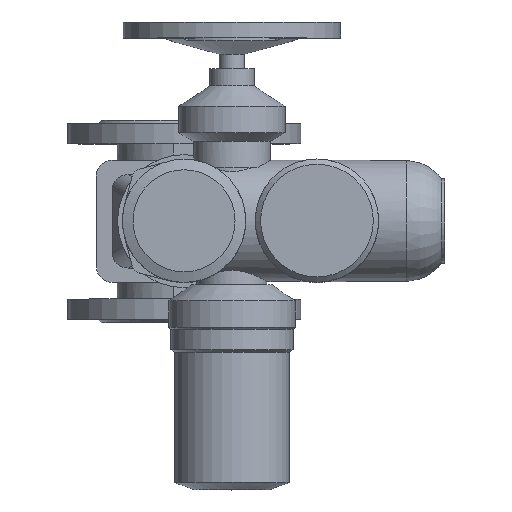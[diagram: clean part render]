
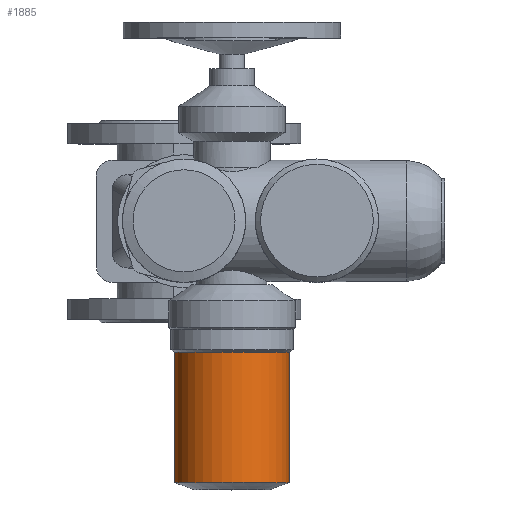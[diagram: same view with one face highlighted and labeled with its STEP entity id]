
A CAD part, top view. The second image highlights one B-rep face of the part: STEP entity #1885.
In plain terms, the highlighted cylindrical face has radius 54 mm (diameter 108 mm), a full revolution.
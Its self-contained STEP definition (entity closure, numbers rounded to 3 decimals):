
#1885=ADVANCED_FACE('',(#4015,#4017),#4019,.T.);
#4015=FACE_OUTER_BOUND('',#4016,.T.);
#4016=EDGE_LOOP('',(#5043));
#4017=FACE_OUTER_BOUND('',#4018,.T.);
#4018=EDGE_LOOP('',(#5044));
#4019=CYLINDRICAL_SURFACE('',#4020,54.);
#4020=AXIS2_PLACEMENT_3D('',#4021,#4022,#4023);
#4021=CARTESIAN_POINT('',(45.,-246.085,288.));
#4022=DIRECTION('',(0.,1.,0.));
#4023=DIRECTION('',(0.,0.,1.));
#5043=ORIENTED_EDGE('',*,*,#5549,.F.);
#5044=ORIENTED_EDGE('',*,*,#5550,.T.);
#5549=EDGE_CURVE('',#6409,#6409,#6410,.T.);
#5550=EDGE_CURVE('',#6411,#6411,#6412,.T.);
#6409=VERTEX_POINT('',#10483);
#6410=CIRCLE('',#10484,54.);
#6411=VERTEX_POINT('',#10488);
#6412=CIRCLE('',#10489,54.);
#10483=CARTESIAN_POINT('',(45.,-123.505,342.));
#10484=AXIS2_PLACEMENT_3D('',#10485,#10486,#10487);
#10485=CARTESIAN_POINT('',(45.,-123.505,288.));
#10486=DIRECTION('',(0.,1.,0.));
#10487=DIRECTION('',(0.,0.,1.));
#10488=CARTESIAN_POINT('',(45.,-246.085,342.));
#10489=AXIS2_PLACEMENT_3D('',#10490,#10491,#10492);
#10490=CARTESIAN_POINT('',(45.,-246.085,288.));
#10491=DIRECTION('',(0.,1.,0.));
#10492=DIRECTION('',(0.,0.,1.));
